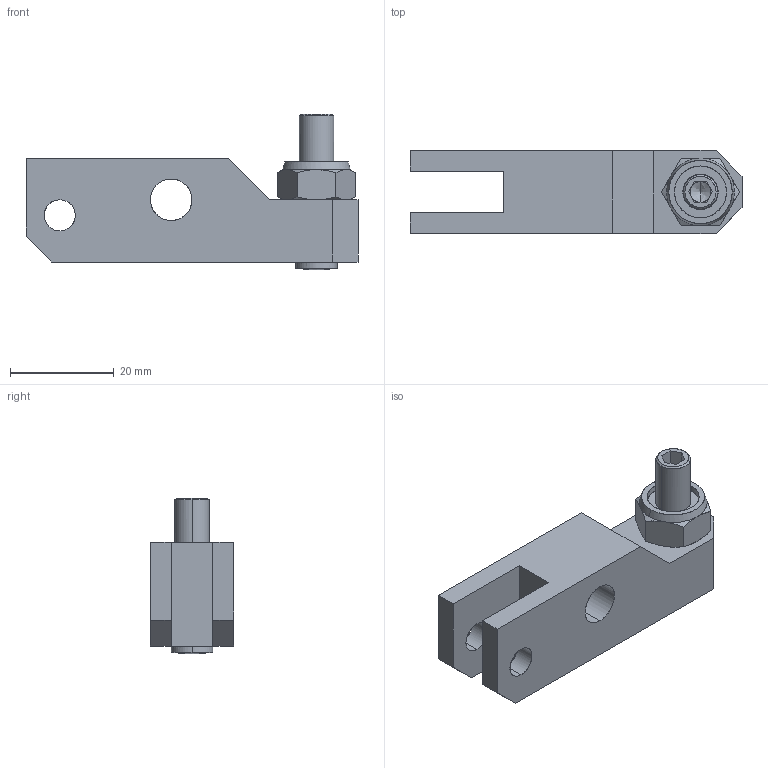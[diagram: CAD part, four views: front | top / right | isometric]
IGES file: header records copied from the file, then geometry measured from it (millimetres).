
Start section: Comment
Global section: file name: JL5H34_ClampArm.igs; native system:  By Spatial Corp.; preprocessor: XPlus GENERIC/IGES 3.0; author: Author; organization: Title; date: 20080526.103725; units: millimetre
Bounding box: 64 x 16 x 30 mm (x, y, z)
Surface area: 7110.2 mm2 (no closed solid volume)
Topology: 0 solids, 0 shells, 89 faces, 428 edges, 422 vertices
Faces by surface type: bspline 89
